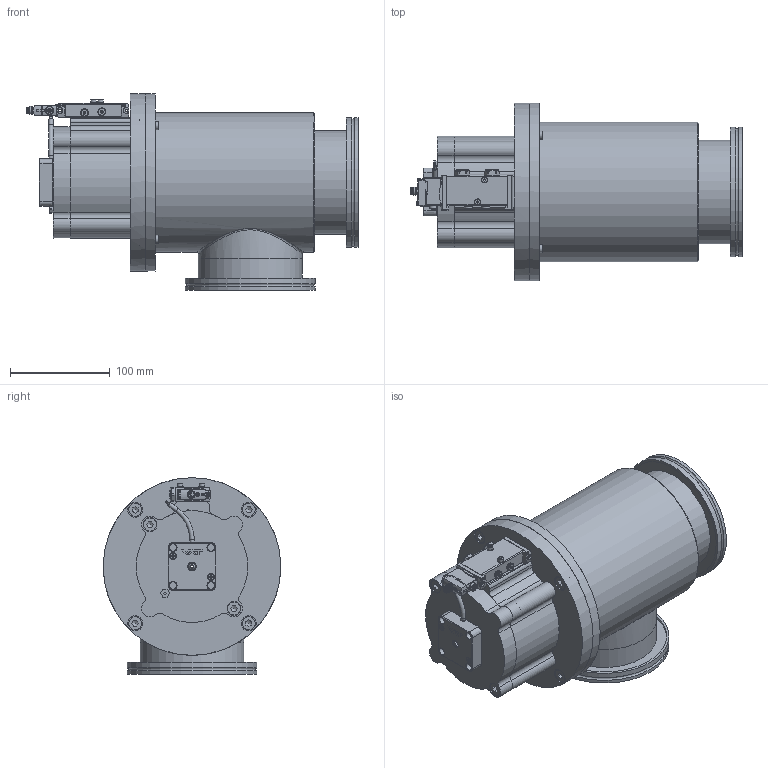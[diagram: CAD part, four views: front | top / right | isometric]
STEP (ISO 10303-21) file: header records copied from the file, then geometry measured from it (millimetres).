
FILE_DESCRIPTION(/* description */ (''),/* implementation_level */ '2;1');
FILE_NAME(/* name */ '1347380560_203.stp',/* time_stamp */ '2014-04-15T10:20:29+02:00',/* author */ (''),/* organization */ (''),/* preprocessor_version */ 'ST-DEVELOPER v11',/* originating_system */ 'SIEMENS PLM Software NX 7.5',/* authorisation */ '');
FILE_SCHEMA (('AP203_CONFIGURATION_CONTROLLED_3D_DESIGN_OF_MECHANICAL_PARTS_AND_ASSEMBLIES_MIM_LF'));
Length unit declared in the file: millimetre
Products named in the file (28): 517238; 513742; 517224; 517223; 517222; 517221; 366217; n-6134-404.1; n-6005-429.1; 571495; 538796; n-6121-026.2; 517625_18309ID; 421306; 233359; 236204_1.1; 224847.1; n-7636-200.2; 544232; 542372; 228777; 476060; 572183_MODEL; 517218_MODEL; 522001_MODEL; 561077_MODEL; 421285; 579540
Assembly tree (38 placements, depth 4):
  579540
    476060
    228777  x4
    542372
    421285
      236204_1.1  x2
      233359
      421306
    561077_MODEL
      517625_18309ID
      n-6121-026.2  x2
    522001_MODEL
      517218_MODEL
        517221  x2
        517222
        517223
        517224
        513742
        517238
    544232
    n-7636-200.2
    572183_MODEL
      538796
      571495  x2
      n-6005-429.1  x2
      n-6134-404.1  x2
      366217  x2
    224847.1  x2
Bounding box: 332.65 x 178 x 197 mm (x, y, z)
Volume: 1182234.2 mm3; surface area: 487870.1 mm2
Topology: 54 solids, 56 shells, 1574 faces, 3834 edges, 2482 vertices
Faces by surface type: plane 859, cylinder 462, cone 151, torus 54, bspline 21, extrusion 19, sphere 8
Full cylindrical faces by diameter (mm): 1 x3, 1.4 x4, 2.46 x2, 2.5 x7, 2.6 x2, 3 x11, 3.2 x4, 3.8 x1, 3.85 x2, 4.2 x2, 4.5 x3, 5 x1, 5.5 x2, 5.6 x3, 5.8 x1, 6 x4, 6.2 x2, 6.5 x2, 6.66 x6, 6.7 x6, 6.8 x8, 6.9 x1, 7.2 x1, 7.4 x3, 8 x16, 8.1 x1, 8.15 x2, 8.3 x6, 8.4 x1, 8.566 x5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
Entity records: 51001 total; most frequent: CARTESIAN_POINT 10362, DIRECTION 6840, ORIENTED_EDGE 6300, EDGE_CURVE 3150, AXIS2_PLACEMENT_3D 2571, VERTEX_POINT 2180, EDGE_LOOP 1852, VECTOR 1698
